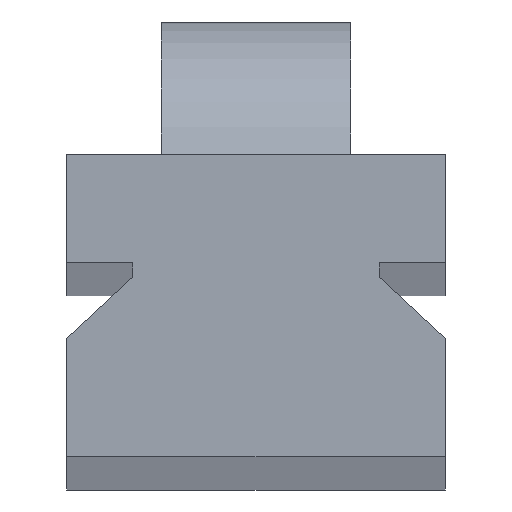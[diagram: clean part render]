
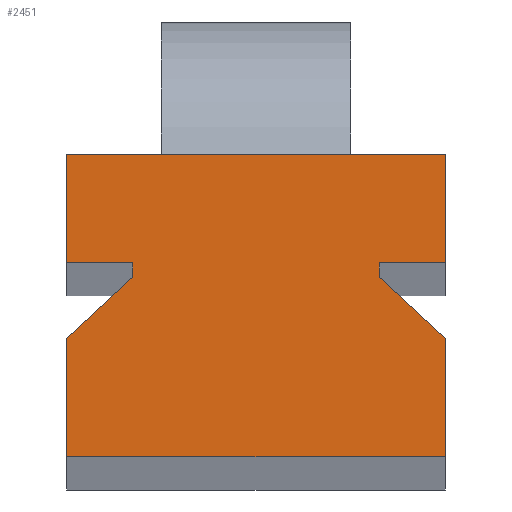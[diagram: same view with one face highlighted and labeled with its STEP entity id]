
A CAD part, top view. The second image highlights one B-rep face of the part: STEP entity #2451.
In plain terms, the highlighted planar face has unit normal (0, 0, 1).
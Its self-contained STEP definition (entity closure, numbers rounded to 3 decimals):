
#32 = CARTESIAN_POINT ( 'NONE',  ( -20., 0., 50. ) ) ;
#44 = EDGE_CURVE ( 'NONE', #1065, #2631, #2514, .T. ) ;
#57 = VECTOR ( 'NONE', #2909, 1000. ) ;
#126 = EDGE_CURVE ( 'NONE', #1310, #1065, #3352, .T. ) ;
#208 = ORIENTED_EDGE ( 'NONE', *, *, #3522, .T. ) ;
#371 = CARTESIAN_POINT ( 'NONE',  ( 20., 12.5, 50. ) ) ;
#442 = EDGE_CURVE ( 'NONE', #1916, #2122, #2404, .T. ) ;
#448 = ORIENTED_EDGE ( 'NONE', *, *, #1531, .T. ) ;
#523 = LINE ( 'NONE', #3273, #1146 ) ;
#605 = DIRECTION ( 'NONE',  ( 0., 1., 0. ) ) ;
#612 = DIRECTION ( 'NONE',  ( -1., 0., 0. ) ) ;
#634 = VECTOR ( 'NONE', #1397, 1000. ) ;
#652 = CARTESIAN_POINT ( 'NONE',  ( 20., 0., 50. ) ) ;
#661 = DIRECTION ( 'NONE',  ( -0.733, 0.68, 0. ) ) ;
#736 = VERTEX_POINT ( 'NONE', #2329 ) ;
#748 = VERTEX_POINT ( 'NONE', #883 ) ;
#758 = DIRECTION ( 'NONE',  ( 0., 0., -1. ) ) ;
#760 = LINE ( 'NONE', #2401, #1972 ) ;
#883 = CARTESIAN_POINT ( 'NONE',  ( -13., 19., 50. ) ) ;
#911 = LINE ( 'NONE', #948, #3480 ) ;
#917 = CARTESIAN_POINT ( 'NONE',  ( 20., 20.5, 50. ) ) ;
#948 = CARTESIAN_POINT ( 'NONE',  ( 20., 32., 50. ) ) ;
#950 = VECTOR ( 'NONE', #1483, 1000. ) ;
#954 = EDGE_CURVE ( 'NONE', #1573, #2330, #1849, .T. ) ;
#1018 = ORIENTED_EDGE ( 'NONE', *, *, #2601, .T. ) ;
#1058 = FACE_OUTER_BOUND ( 'NONE', #3416, .T. ) ;
#1062 = DIRECTION ( 'NONE',  ( 1., 0., 0. ) ) ;
#1065 = VERTEX_POINT ( 'NONE', #1921 ) ;
#1084 = LINE ( 'NONE', #1344, #634 ) ;
#1098 = CARTESIAN_POINT ( 'NONE',  ( -13., 20.5, 50. ) ) ;
#1146 = VECTOR ( 'NONE', #1333, 1000. ) ;
#1175 = VECTOR ( 'NONE', #1973, 1000. ) ;
#1183 = EDGE_CURVE ( 'NONE', #2631, #1836, #911, .T. ) ;
#1203 = EDGE_CURVE ( 'NONE', #2330, #1310, #2534, .T. ) ;
#1283 = CARTESIAN_POINT ( 'NONE',  ( -20., 0., 50. ) ) ;
#1295 = EDGE_CURVE ( 'NONE', #3280, #1394, #1548, .T. ) ;
#1297 = EDGE_CURVE ( 'NONE', #1394, #1573, #760, .T. ) ;
#1302 = DIRECTION ( 'NONE',  ( 0., -1., 0. ) ) ;
#1310 = VERTEX_POINT ( 'NONE', #3220 ) ;
#1333 = DIRECTION ( 'NONE',  ( -0.733, -0.68, 0. ) ) ;
#1344 = CARTESIAN_POINT ( 'NONE',  ( -13., 20.5, 50. ) ) ;
#1394 = VERTEX_POINT ( 'NONE', #32 ) ;
#1397 = DIRECTION ( 'NONE',  ( 0., -1., 0. ) ) ;
#1419 = LINE ( 'NONE', #3369, #1895 ) ;
#1483 = DIRECTION ( 'NONE',  ( 1., 0., 0. ) ) ;
#1526 = VECTOR ( 'NONE', #1062, 1000. ) ;
#1531 = EDGE_CURVE ( 'NONE', #1836, #736, #1419, .T. ) ;
#1548 = LINE ( 'NONE', #1283, #1802 ) ;
#1573 = VERTEX_POINT ( 'NONE', #652 ) ;
#1670 = DIRECTION ( 'NONE',  ( 0., -1., 0. ) ) ;
#1779 = ORIENTED_EDGE ( 'NONE', *, *, #44, .T. ) ;
#1802 = VECTOR ( 'NONE', #1302, 1000. ) ;
#1836 = VERTEX_POINT ( 'NONE', #2608 ) ;
#1849 = LINE ( 'NONE', #3455, #57 ) ;
#1850 = ORIENTED_EDGE ( 'NONE', *, *, #1295, .T. ) ;
#1895 = VECTOR ( 'NONE', #612, 1000. ) ;
#1916 = VERTEX_POINT ( 'NONE', #3356 ) ;
#1921 = CARTESIAN_POINT ( 'NONE',  ( 13., 20.5, 50. ) ) ;
#1940 = ORIENTED_EDGE ( 'NONE', *, *, #126, .T. ) ;
#1949 = CARTESIAN_POINT ( 'NONE',  ( -20., 12.5, 50. ) ) ;
#1966 = AXIS2_PLACEMENT_3D ( 'NONE', #2455, #758, #3564 ) ;
#1972 = VECTOR ( 'NONE', #3515, 1000. ) ;
#1973 = DIRECTION ( 'NONE',  ( 0., 1., 0. ) ) ;
#2091 = VECTOR ( 'NONE', #661, 1000. ) ;
#2122 = VERTEX_POINT ( 'NONE', #1098 ) ;
#2164 = PLANE ( 'NONE',  #1966 ) ;
#2329 = CARTESIAN_POINT ( 'NONE',  ( -20., 32., 50. ) ) ;
#2330 = VERTEX_POINT ( 'NONE', #2929 ) ;
#2401 = CARTESIAN_POINT ( 'NONE',  ( -20., 0., 50. ) ) ;
#2404 = LINE ( 'NONE', #2730, #1526 ) ;
#2440 = ORIENTED_EDGE ( 'NONE', *, *, #1203, .T. ) ;
#2451 = ADVANCED_FACE ( 'NONE', ( #1058 ), #2164, .F. ) ;
#2455 = CARTESIAN_POINT ( 'NONE',  ( 0., 0., 50. ) ) ;
#2514 = LINE ( 'NONE', #2822, #950 ) ;
#2534 = LINE ( 'NONE', #371, #2091 ) ;
#2543 = CARTESIAN_POINT ( 'NONE',  ( -20., 32., 50. ) ) ;
#2601 = EDGE_CURVE ( 'NONE', #736, #1916, #3087, .T. ) ;
#2608 = CARTESIAN_POINT ( 'NONE',  ( 20., 32., 50. ) ) ;
#2631 = VERTEX_POINT ( 'NONE', #917 ) ;
#2730 = CARTESIAN_POINT ( 'NONE',  ( -20., 20.5, 50. ) ) ;
#2822 = CARTESIAN_POINT ( 'NONE',  ( 20., 20.5, 50. ) ) ;
#2829 = EDGE_CURVE ( 'NONE', #2122, #748, #1084, .T. ) ;
#2899 = ORIENTED_EDGE ( 'NONE', *, *, #1297, .T. ) ;
#2909 = DIRECTION ( 'NONE',  ( 0., 1., 0. ) ) ;
#2929 = CARTESIAN_POINT ( 'NONE',  ( 20., 12.5, 50. ) ) ;
#2977 = ORIENTED_EDGE ( 'NONE', *, *, #2829, .T. ) ;
#3076 = CARTESIAN_POINT ( 'NONE',  ( 13., 20.5, 50. ) ) ;
#3087 = LINE ( 'NONE', #2543, #3303 ) ;
#3216 = ORIENTED_EDGE ( 'NONE', *, *, #954, .T. ) ;
#3220 = CARTESIAN_POINT ( 'NONE',  ( 13., 19., 50. ) ) ;
#3273 = CARTESIAN_POINT ( 'NONE',  ( -20., 12.5, 50. ) ) ;
#3280 = VERTEX_POINT ( 'NONE', #1949 ) ;
#3303 = VECTOR ( 'NONE', #1670, 1000. ) ;
#3352 = LINE ( 'NONE', #3076, #1175 ) ;
#3356 = CARTESIAN_POINT ( 'NONE',  ( -20., 20.5, 50. ) ) ;
#3369 = CARTESIAN_POINT ( 'NONE',  ( 20., 32., 50. ) ) ;
#3383 = ORIENTED_EDGE ( 'NONE', *, *, #442, .T. ) ;
#3416 = EDGE_LOOP ( 'NONE', ( #1850, #2899, #3216, #2440, #1940, #1779, #3571, #448, #1018, #3383, #2977, #208 ) ) ;
#3455 = CARTESIAN_POINT ( 'NONE',  ( 20., 0., 50. ) ) ;
#3480 = VECTOR ( 'NONE', #605, 1000. ) ;
#3515 = DIRECTION ( 'NONE',  ( 1., 0., 0. ) ) ;
#3522 = EDGE_CURVE ( 'NONE', #748, #3280, #523, .T. ) ;
#3564 = DIRECTION ( 'NONE',  ( -1., 0., 0. ) ) ;
#3571 = ORIENTED_EDGE ( 'NONE', *, *, #1183, .T. ) ;
